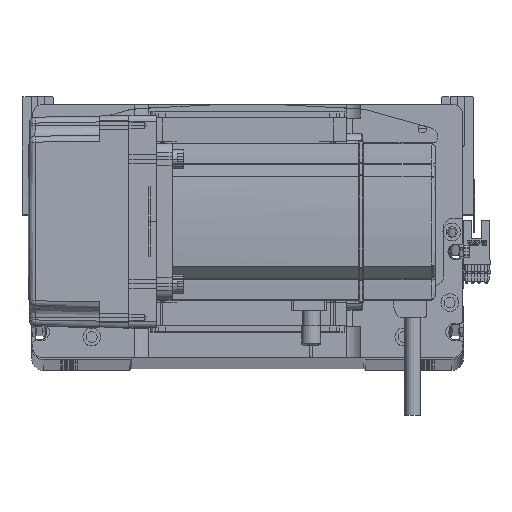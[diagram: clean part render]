
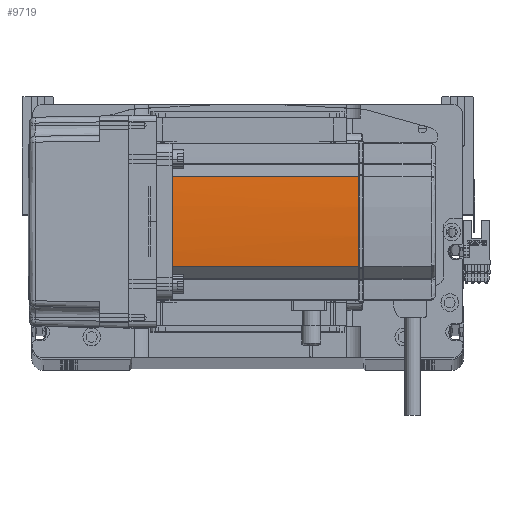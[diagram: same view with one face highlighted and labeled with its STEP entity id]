
A CAD part, top view. The second image highlights one B-rep face of the part: STEP entity #9719.
In plain terms, the highlighted cylindrical face has radius 270 mm (diameter 540 mm), a partial arc.
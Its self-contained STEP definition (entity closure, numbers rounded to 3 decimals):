
#388 = DIRECTION ( 'NONE',  ( 0., 0., 1. ) ) ;
#1284 = AXIS2_PLACEMENT_3D ( 'NONE', #4303, #13364, #26622 ) ;
#1756 = VERTEX_POINT ( 'NONE', #46550 ) ;
#4011 = DIRECTION ( 'NONE',  ( -1., 0., 0. ) ) ;
#4303 = CARTESIAN_POINT ( 'NONE',  ( -230., 0., 134. ) ) ;
#5585 = CARTESIAN_POINT ( 'NONE',  ( 40., -0.127, 134. ) ) ;
#7219 = EDGE_CURVE ( 'NONE', #27872, #39161, #55377, .T. ) ;
#8532 = VECTOR ( 'NONE', #16838, 1000. ) ;
#9719 = ADVANCED_FACE ( 'NONE', ( #10640 ), #44472, .T. ) ;
#10640 = FACE_OUTER_BOUND ( 'NONE', #39126, .T. ) ;
#11425 = VERTEX_POINT ( 'NONE', #44226 ) ;
#13260 = CARTESIAN_POINT ( 'NONE',  ( -230., 0., 39. ) ) ;
#13364 = DIRECTION ( 'NONE',  ( 0., 0., -1. ) ) ;
#13706 = EDGE_CURVE ( 'NONE', #53618, #11425, #31521, .T. ) ;
#14181 = ORIENTED_EDGE ( 'NONE', *, *, #40776, .T. ) ;
#16328 = CIRCLE ( 'NONE', #26389, 270. ) ;
#16838 = DIRECTION ( 'NONE',  ( 0., 0., -1. ) ) ;
#17755 = CARTESIAN_POINT ( 'NONE',  ( -230., 0., 134. ) ) ;
#17859 = DIRECTION ( 'NONE',  ( 0., 0., -1. ) ) ;
#20556 = EDGE_CURVE ( 'NONE', #27872, #53618, #38501, .T. ) ;
#22390 = DIRECTION ( 'NONE',  ( 0., 0., -1. ) ) ;
#22586 = CARTESIAN_POINT ( 'NONE',  ( 40., 0.042, 134. ) ) ;
#24207 = DIRECTION ( 'NONE',  ( 0., 0., -1. ) ) ;
#26389 = AXIS2_PLACEMENT_3D ( 'NONE', #13260, #17859, #4011 ) ;
#26622 = DIRECTION ( 'NONE',  ( -1., 0., 0. ) ) ;
#27035 = DIRECTION ( 'NONE',  ( -1., 0., 0. ) ) ;
#27872 = VERTEX_POINT ( 'NONE', #5585 ) ;
#28291 = CARTESIAN_POINT ( 'NONE',  ( 39.042, 22.724, 58. ) ) ;
#31521 = LINE ( 'NONE', #57265, #8532 ) ;
#31617 = CARTESIAN_POINT ( 'NONE',  ( 40., 0.127, 134. ) ) ;
#32711 = CARTESIAN_POINT ( 'NONE',  ( 39.042, -22.724, 134. ) ) ;
#33199 = DIRECTION ( 'NONE',  ( -1., 0., 0. ) ) ;
#33210 = EDGE_CURVE ( 'NONE', #54435, #1756, #52850, .T. ) ;
#38501 = CIRCLE ( 'NONE', #48359, 270. ) ;
#39126 = EDGE_LOOP ( 'NONE', ( #53739, #47763, #59243, #14181, #55546, #55778 ) ) ;
#39161 = VERTEX_POINT ( 'NONE', #42019 ) ;
#40776 = EDGE_CURVE ( 'NONE', #1756, #39161, #41719, .T. ) ;
#41719 = CIRCLE ( 'NONE', #1284, 270. ) ;
#42019 = CARTESIAN_POINT ( 'NONE',  ( 40., 0.127, 134. ) ) ;
#42680 = CARTESIAN_POINT ( 'NONE',  ( -230., 0., 58. ) ) ;
#44226 = CARTESIAN_POINT ( 'NONE',  ( 39.042, -22.724, 39. ) ) ;
#44472 = CYLINDRICAL_SURFACE ( 'NONE', #53171, 270. ) ;
#46550 = CARTESIAN_POINT ( 'NONE',  ( 39.042, 22.724, 134. ) ) ;
#47763 = ORIENTED_EDGE ( 'NONE', *, *, #56285, .F. ) ;
#48359 = AXIS2_PLACEMENT_3D ( 'NONE', #17755, #22390, #27035 ) ;
#50166 = CARTESIAN_POINT ( 'NONE',  ( 40., -0.042, 134. ) ) ;
#52850 = LINE ( 'NONE', #28291, #55749 ) ;
#53171 = AXIS2_PLACEMENT_3D ( 'NONE', #42680, #24207, #33199 ) ;
#53618 = VERTEX_POINT ( 'NONE', #32711 ) ;
#53739 = ORIENTED_EDGE ( 'NONE', *, *, #13706, .T. ) ;
#54435 = VERTEX_POINT ( 'NONE', #54661 ) ;
#54661 = CARTESIAN_POINT ( 'NONE',  ( 39.042, 22.724, 39. ) ) ;
#55377 = B_SPLINE_CURVE_WITH_KNOTS ( 'NONE', 3,
 ( #59348, #50166, #22586, #31617 ),
 .UNSPECIFIED., .F., .F.,
 ( 4, 4 ),
 ( 0., 1. ),
 .UNSPECIFIED. ) ;
#55546 = ORIENTED_EDGE ( 'NONE', *, *, #7219, .F. ) ;
#55749 = VECTOR ( 'NONE', #388, 1000. ) ;
#55778 = ORIENTED_EDGE ( 'NONE', *, *, #20556, .T. ) ;
#56285 = EDGE_CURVE ( 'NONE', #54435, #11425, #16328, .T. ) ;
#57265 = CARTESIAN_POINT ( 'NONE',  ( 39.042, -22.724, 58. ) ) ;
#59243 = ORIENTED_EDGE ( 'NONE', *, *, #33210, .T. ) ;
#59348 = CARTESIAN_POINT ( 'NONE',  ( 40., -0.127, 134. ) ) ;
